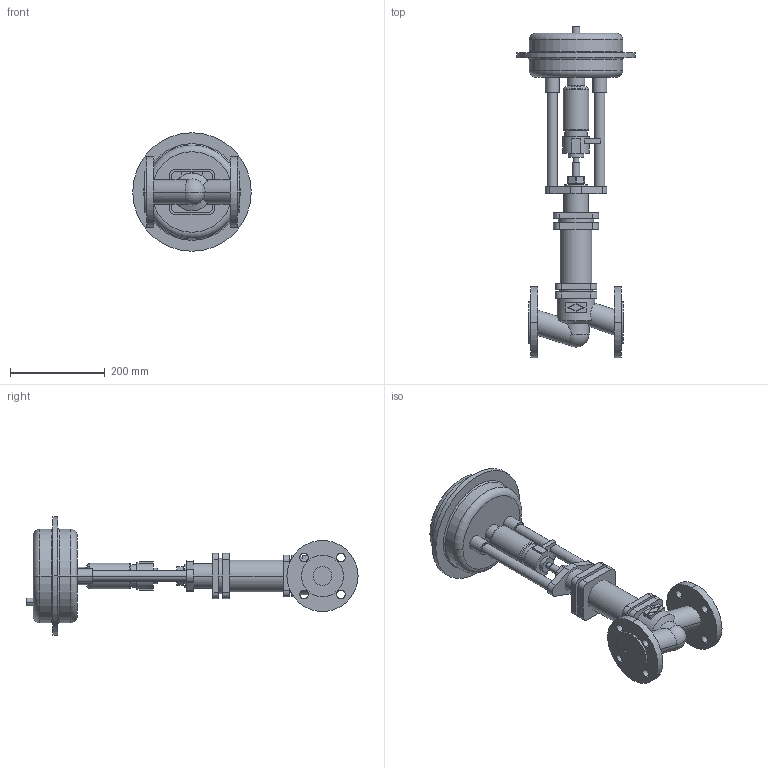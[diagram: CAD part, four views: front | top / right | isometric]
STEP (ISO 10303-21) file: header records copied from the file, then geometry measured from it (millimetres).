
FILE_DESCRIPTION(('OneSpaceDesigner STEP Export'),'2;1');
FILE_NAME('c000000377.stp','2005-12-12T10:37:10',(''),(''),'OneSpace Designer STEP processor for AP203 (Solid Model)','OneSpace Designer 13.20A 18-Aug-2005 (C) CoCreate Software GmbH','');
FILE_SCHEMA(('CONFIG_CONTROL_DESIGN'));
Length unit declared in the file: millimetre
Products named in the file (1): 1
Bounding box: 250 x 701 x 250 mm (x, y, z)
Volume: 5786466 mm3; surface area: 443532.3 mm2
Topology: 1 solids, 1 shells, 218 faces, 540 edges, 354 vertices
Faces by surface type: cylinder 104, plane 90, torus 16, cone 6, sphere 2
Entity records: 6174 total; most frequent: CARTESIAN_POINT 1236, ORIENTED_EDGE 1076, DIRECTION 925, EDGE_CURVE 538, VERTEX_POINT 354, AXIS2_PLACEMENT_3D 332, EDGE_LOOP 270, VECTOR 261
